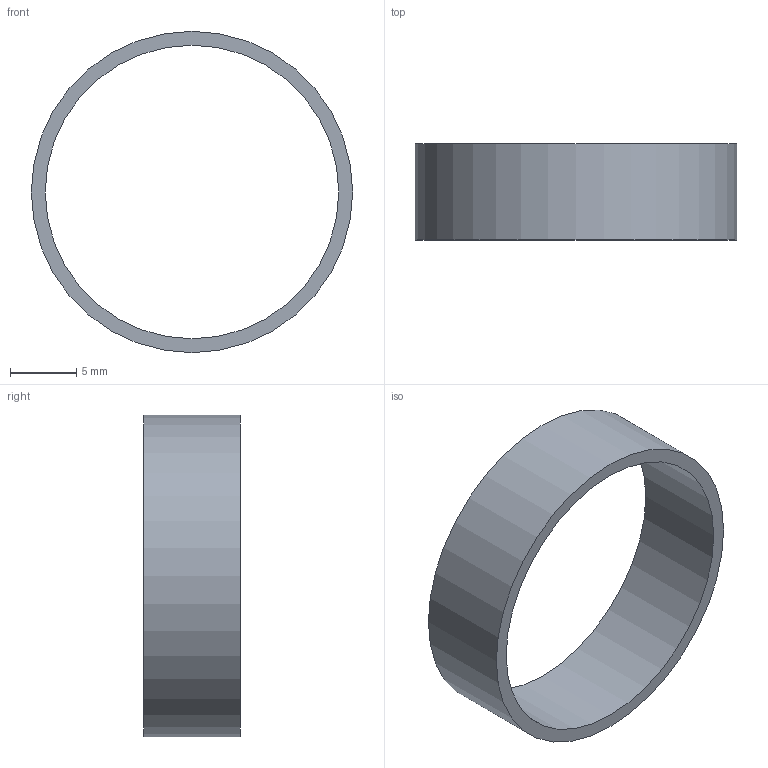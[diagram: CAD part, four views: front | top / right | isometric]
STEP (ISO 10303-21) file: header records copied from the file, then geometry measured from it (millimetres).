
FILE_DESCRIPTION(/* description */ ('STEP AP242 Edition 2','CAx-IF Rec.Pracs.---Representation and Presentation of Product Manufacturing Information (PMI)---4.0---2014-10-13','CAx-IF Rec.Pracs.---3D Tessellated Geometry---0.4---2014-09-14','2;1','CAx-IF Rec.Pracs.---User Defined Attributes---1.5---2016-08-15'),/* implementation_level */ '2;1');
FILE_NAME(/* name */ 'outeringtighter - Part 1',/* time_stamp */ '2026-09-12T07:37:08Z',/* author */ (''),/* organization */ (''),/* preprocessor_version */ 'ST-DEVELOPER v20',/* originating_system */ 'ONSHAPE BY PTC INC, 1.220',/* authorisation */ ' ');
FILE_SCHEMA (('AP242_MANAGED_MODEL_BASED_3D_ENGINEERING_MIM_LF { 1 0 10303 442 3 1 4 }'));
Length unit declared in the file: metre
Products named in the file (1): Part 1
Bounding box: 24.25 x 7.25 x 24.25 mm (x, y, z)
Volume: 554.8 mm3; surface area: 1209.9 mm2
Topology: 1 solids, 1 shells, 4 faces, 6 edges, 4 vertices
Faces by surface type: cylinder 2, plane 2
Full cylindrical faces by diameter (mm): 22.15 x1, 24.25 x1
Entity records: 110 total; most frequent: DIRECTION 18, CARTESIAN_POINT 13, AXIS2_PLACEMENT_3D 9, ORIENTED_EDGE 8, EDGE_LOOP 8, FACE_BOUND 8, EDGE_CURVE 4, VERTEX_POINT 4
